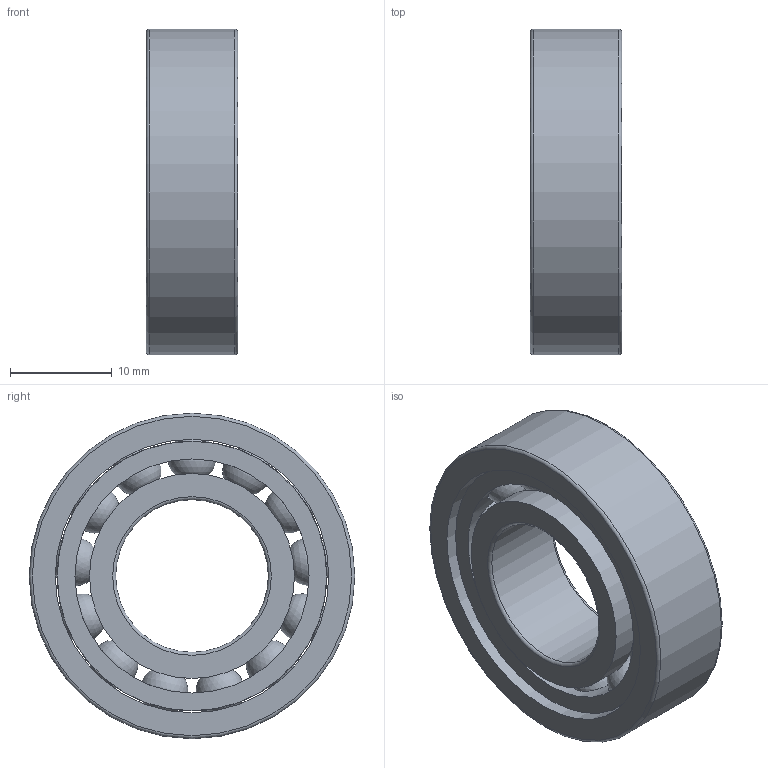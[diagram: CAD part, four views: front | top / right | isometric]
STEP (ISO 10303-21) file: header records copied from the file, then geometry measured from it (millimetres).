
FILE_DESCRIPTION(/* description */ (''),/* implementation_level */ '2;1');
FILE_NAME(/* name */ 'S_6002_TA.step',/* time_stamp */ '2013-03-06T14:43:18+01:00',/* author */ ('Marian'),/* organization */ ('GMN'),/* preprocessor_version */ 'ST-DEVELOPER v11',/* originating_system */ 'SIEMENS UGS NX 6.0',/* authorisation */ '');
FILE_SCHEMA (('CONFIG_CONTROL_DESIGN'));
Length unit declared in the file: millimetre
Products named in the file (1): S_6002_TA
Bounding box: 9 x 32 x 32 mm (x, y, z)
Volume: 4238.8 mm3; surface area: 5506.8 mm2
Topology: 16 solids, 16 shells, 46 faces, 112 edges, 72 vertices
Faces by surface type: cylinder 20, sphere 13, torus 6, plane 6, cone 1
Full cylindrical faces by diameter (mm): 4.962 x13, 15 x1, 20.15 x2, 23.012 x1, 26.5 x1, 26.9 x1, 32 x1
Entity records: 2500 total; most frequent: CARTESIAN_POINT 1634, DIRECTION 134, FACE_BOUND 105, EDGE_LOOP 92, ORIENTED_EDGE 92, AXIS2_PLACEMENT_3D 67, VERTEX_POINT 59, EDGE_CURVE 46
